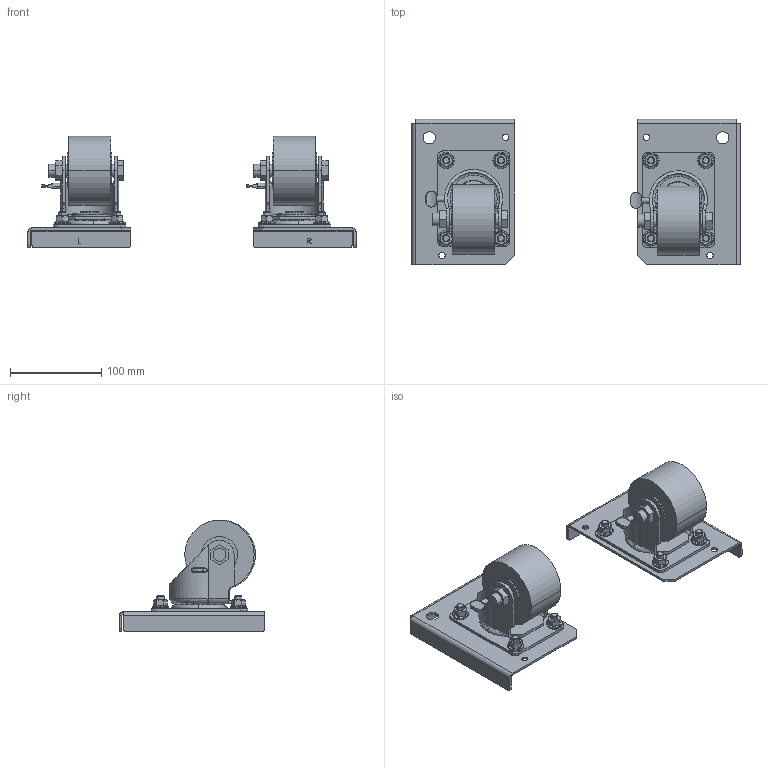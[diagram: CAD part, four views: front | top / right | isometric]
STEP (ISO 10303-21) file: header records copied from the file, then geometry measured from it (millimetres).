
FILE_DESCRIPTION (( 'STEP AP203' ), '1' );
FILE_NAME ('p2ack.STEP', '2018-02-28T20:07:49', ( '' ), ( '' ), 'SwSTEP 2.0', 'SolidWorks 2014', '' );
FILE_SCHEMA (( 'CONFIG_CONTROL_DESIGN' ));
Length unit declared in the file: millimetre
Products named in the file (11): 89160883; 89160884; 89160881; 89161071; 87933633_87933633; p2ack; 89160882; 89070873_89070873; 99401305_99401305; 64108001_64108001; 89161070
Assembly tree (32 placements, depth 4):
  p2ack
    89161070
      89160882
        89160881
        87933633_87933633  x4
      89070873_89070873
      99401305_99401305  x4
      64108001_64108001  x4
    89161071
      89160884
        89160883
        87933633_87933633  x4
      89070873_89070873
      99401305_99401305  x4
      64108001_64108001  x4
Bounding box: 360.93 x 159.5 x 122.81 mm (x, y, z)
Volume: 721166.3 mm3; surface area: 234089.7 mm2
Topology: 28 solids, 28 shells, 1411 faces, 3668 edges, 2366 vertices
Faces by surface type: plane 692, cylinder 350, cone 232, bspline 105, torus 32
Entity records: 16836 total; most frequent: CARTESIAN_POINT 5536, ORIENTED_EDGE 1998, DIRECTION 1996, EDGE_CURVE 999, AXIS2_PLACEMENT_3D 744, VERTEX_POINT 643, VECTOR 508, LINE 508
